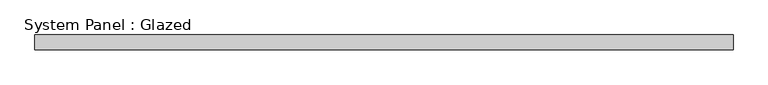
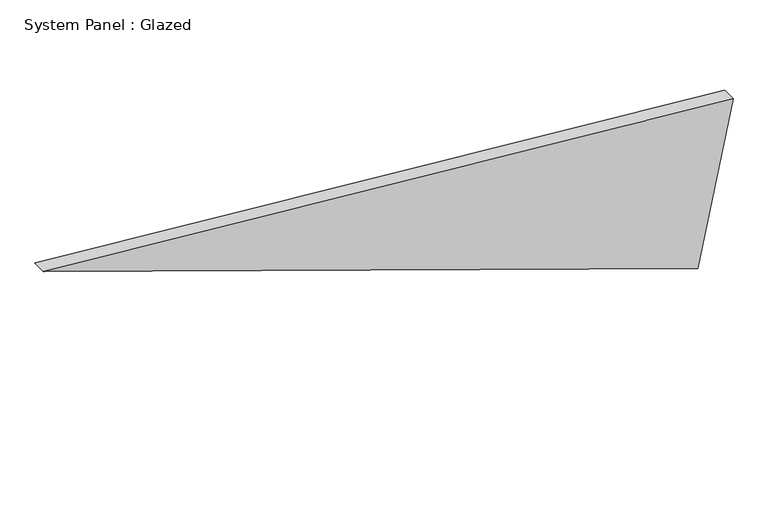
"""IFC4 building model written with IfcOpenShell, lengths in millimetres: plate geometry, System Panel : Glazed."""

from ifc_helpers import new_model, si_unit, frame, origin, place, context, project, spatial, polyline, outline, extrude, source, transform, mapped, element, save


def system_panel_glazed_567528ff(model_context):
    return source(origin(), model_context, "Body", "SweptSolid", [
        extrude(outline(polyline([(0.0, 522.6834032), (283.0526043, 582.58219), (381.7572676, -582.58219), (0.0, 522.6834032)])), frame((0.0, -49.5, 0.0), z_axis=(0.0, 1.0, 0.0), x_axis=(0.0, 0.0, 1.0)), (0.0, 0.0, 1.0), 25.0),
    ])


if __name__ == "__main__":
    model = new_model("IFC4")
    model_context = context("Model", 3, world=origin())
    ifc_project = project(units=[si_unit("LENGTHUNIT", "METRE", prefix="MILLI")], contexts=[model_context])
    site = spatial("IfcSite", under=ifc_project)
    building = spatial("IfcBuilding", under=site)
    placement = place(None, origin())
    system_panel_glazed_shape = system_panel_glazed_567528ff(model_context)
    element("IfcPlate", 1, ObjectType="System Panel : Glazed", at=placement, inside=building, context=model_context, shape_type="MappedRepresentation", body=[
        mapped(system_panel_glazed_shape, transform((0.0, 0.0, 0.0), x_axis=(1.0, 0.0, 0.0), y_axis=(0.0, 1.0, 0.0), z_axis=(0.0, 0.0, 1.0))),
    ])
    save(model, "model.ifc")
